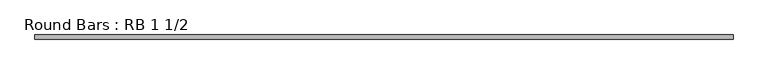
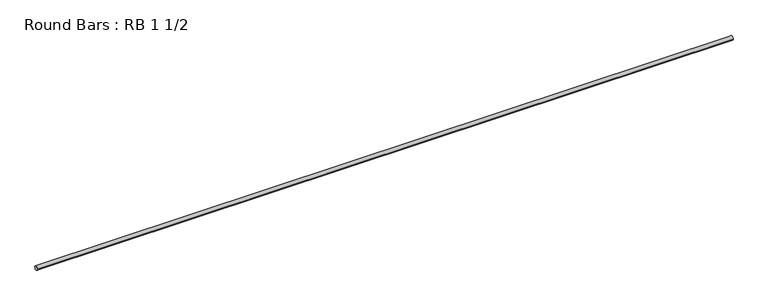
"""IFC4 building model written with IfcOpenShell, lengths in millimetres: member geometry, Round Bars : RB 1 1/2."""

from ifc_helpers import new_model, si_unit, point, frame, origin, origin_2d, place, context, project, spatial, circle_curve, trimmed, segment, composite_curve, outline, extrude, source, transform, mapped, element, save


def round_bars_rb_1_1_2_64e711c5(model_context):
    return source(origin(), model_context, "Body", "SweptSolid", [
        extrude(outline(composite_curve([segment(trimmed(circle_curve(origin_2d(), 19.05), [point((19.05, 0.0))], [point((-19.05, 0.0))], False, "CARTESIAN"), True, "CONTINUOUS"), segment(trimmed(circle_curve(origin_2d(), 19.05), [point((-19.05, 0.0))], [point((19.05, 0.0))], False, "CARTESIAN"), True, "CONTINUOUS")], self_intersect=False)), frame((-3251.2742641, 0.0, 0.0), z_axis=(1.0, 0.0, 0.0), x_axis=(0.0, 1.0, 0.0)), (0.0, 0.0, 1.0), 6502.5485282),
    ])


if __name__ == "__main__":
    model = new_model("IFC4")
    model_context = context("Model", 3, world=origin())
    ifc_project = project(units=[si_unit("LENGTHUNIT", "METRE", prefix="MILLI")], contexts=[model_context])
    site = spatial("IfcSite", under=ifc_project)
    building = spatial("IfcBuilding", under=site)
    placement = place(None, origin())
    round_bars_rb_1_1_2_shape = round_bars_rb_1_1_2_64e711c5(model_context)
    element("IfcMember", 1, ObjectType="Round Bars : RB 1 1/2", at=placement, inside=building, context=model_context, shape_type="MappedRepresentation", body=[
        mapped(round_bars_rb_1_1_2_shape, transform((0.0, 0.0, 0.0), x_axis=(1.0, 0.0, 0.0), y_axis=(0.0, 1.0, 0.0), z_axis=(0.0, 0.0, 1.0))),
    ])
    save(model, "model.ifc")
